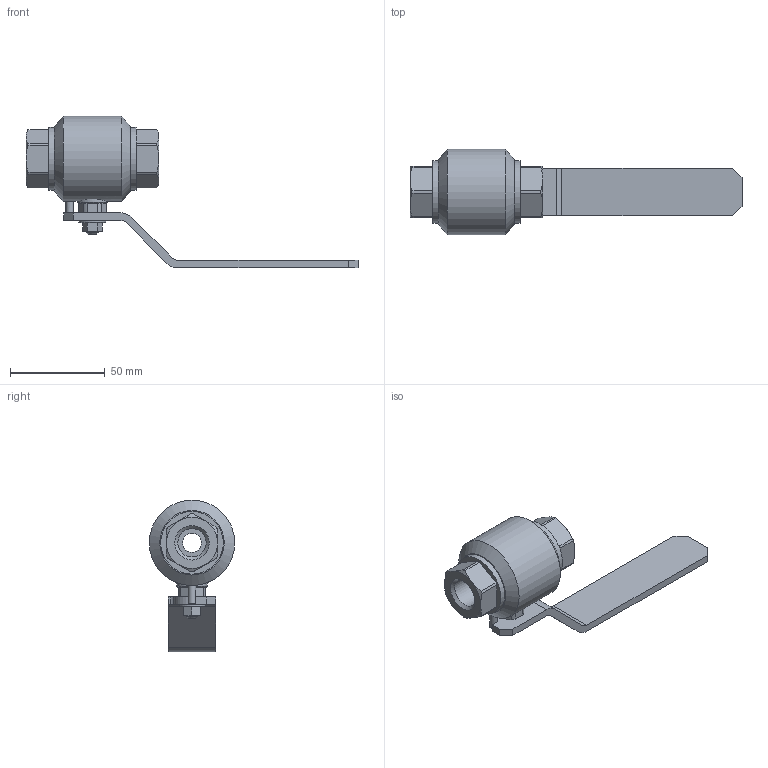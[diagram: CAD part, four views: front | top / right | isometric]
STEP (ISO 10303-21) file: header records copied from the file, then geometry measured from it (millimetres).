
FILE_DESCRIPTION(('STEP AP203'), '1');
FILE_NAME('ZARDP 010.100.10.P.stp', '2013-12-05T08:27:28', ('Øèøêî'), ('Ýíåðïðåä ßðäîñ'), 'ASCON STEP Converter 1.3', 'Kompas 3D', '');
FILE_SCHEMA(('CONFIG_CONTROL_DESIGN','SUPPORT_RESOURCE_SCHEMA'));
Length unit declared in the file: millimetre
Products named in the file (1): 26
Bounding box: 175 x 45 x 80 mm (x, y, z)
Volume: 81899.1 mm3; surface area: 25974.9 mm2
Topology: 1 solids, 3 shells, 177 faces, 422 edges, 260 vertices
Faces by surface type: plane 96, cylinder 46, cone 34, bspline 1
Full cylindrical faces by diameter (mm): 4 x2, 6 x2, 8.673 x1, 9 x1, 10 x3, 10.1 x1, 14.2 x1, 14.95 x2, 15.8 x1, 16 x3, 25.4 x1, 33 x2, 45 x1
Entity records: 6851 total; most frequent: CARTESIAN_POINT 2627, DIRECTION 885, ORIENTED_EDGE 842, EDGE_CURVE 421, AXIS2_PLACEMENT_3D 336, VERTEX_POINT 260, LINE 213, VECTOR 213
